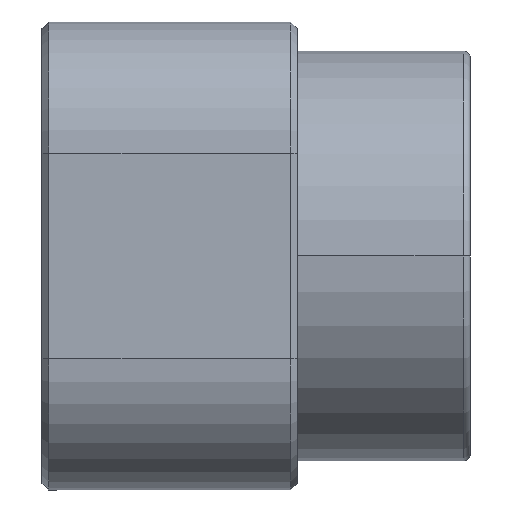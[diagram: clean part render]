
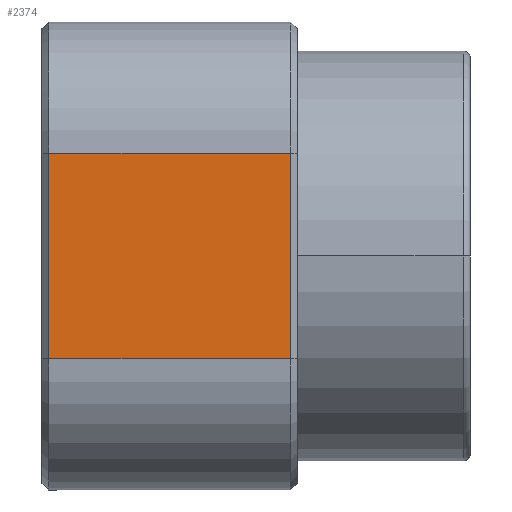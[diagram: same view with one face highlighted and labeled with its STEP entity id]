
A CAD part, left-side view. The second image highlights one B-rep face of the part: STEP entity #2374.
In plain terms, the highlighted planar face has unit normal (-1, 0, 0).
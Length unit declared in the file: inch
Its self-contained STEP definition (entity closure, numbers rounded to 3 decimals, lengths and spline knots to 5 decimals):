
#161 = VERTEX_POINT ( 'NONE', #991 ) ;
#172 = EDGE_CURVE ( 'NONE', #2380, #161, #979, .T. ) ;
#173 = VERTEX_POINT ( 'NONE', #992 ) ;
#179 = ORIENTED_EDGE ( 'NONE', *, *, #186, .T. ) ;
#181 = EDGE_CURVE ( 'NONE', #161, #173, #1026, .T. ) ;
#182 = ORIENTED_EDGE ( 'NONE', *, *, #181, .T. ) ;
#186 = EDGE_CURVE ( 'NONE', #173, #2384, #1014, .T. ) ;
#968 = DIRECTION ( 'NONE',  ( 0., 1., 0. ) ) ;
#969 = VECTOR ( 'NONE', #968, 39.37008 ) ;
#978 = CARTESIAN_POINT ( 'NONE',  ( -1.24, 0.2975, 0.72 ) ) ;
#979 = LINE ( 'NONE', #978, #969 ) ;
#991 = CARTESIAN_POINT ( 'NONE',  ( -1.24, 0.2975, 0.72 ) ) ;
#992 = CARTESIAN_POINT ( 'NONE',  ( -1.24, 0.2975, 0.02 ) ) ;
#1009 = DIRECTION ( 'NONE',  ( 0., -1., 0. ) ) ;
#1010 = VECTOR ( 'NONE', #1009, 39.37008 ) ;
#1014 = LINE ( 'NONE', #1015, #1010 ) ;
#1015 = CARTESIAN_POINT ( 'NONE',  ( -1.24, -0.6775, 0.02 ) ) ;
#1018 = DIRECTION ( 'NONE',  ( 0., 0., -1. ) ) ;
#1019 = VECTOR ( 'NONE', #1018, 39.37008 ) ;
#1020 = CARTESIAN_POINT ( 'NONE',  ( -1.24, 0.2975, 0.74 ) ) ;
#1026 = LINE ( 'NONE', #1020, #1019 ) ;
#2064 = CARTESIAN_POINT ( 'NONE',  ( -1.24, -0.2975, 0.02 ) ) ;
#2073 = AXIS2_PLACEMENT_3D ( 'NONE', #2112, #2108, #2107 ) ;
#2094 = DIRECTION ( 'NONE',  ( 0., 0., 1. ) ) ;
#2095 = VECTOR ( 'NONE', #2094, 39.37008 ) ;
#2096 = CARTESIAN_POINT ( 'NONE',  ( -1.24, -0.2975, 0.74 ) ) ;
#2097 = LINE ( 'NONE', #2096, #2095 ) ;
#2105 = CARTESIAN_POINT ( 'NONE',  ( -1.24, -0.2975, 0.72 ) ) ;
#2107 = DIRECTION ( 'NONE',  ( 0., 0., 1. ) ) ;
#2108 = DIRECTION ( 'NONE',  ( -1., 0., 0. ) ) ;
#2112 = CARTESIAN_POINT ( 'NONE',  ( -1.24, -0.6775, 0.74 ) ) ;
#2114 = FACE_OUTER_BOUND ( 'NONE', #2376, .T. ) ;
#2119 = PLANE ( 'NONE',  #2073 ) ;
#2374 = ADVANCED_FACE ( 'NONE', ( #2114 ), #2119, .T. ) ;
#2376 = EDGE_LOOP ( 'NONE', ( #2390, #2381, #182, #179 ) ) ;
#2380 = VERTEX_POINT ( 'NONE', #2105 ) ;
#2381 = ORIENTED_EDGE ( 'NONE', *, *, #172, .T. ) ;
#2384 = VERTEX_POINT ( 'NONE', #2064 ) ;
#2385 = EDGE_CURVE ( 'NONE', #2384, #2380, #2097, .T. ) ;
#2390 = ORIENTED_EDGE ( 'NONE', *, *, #2385, .T. ) ;
